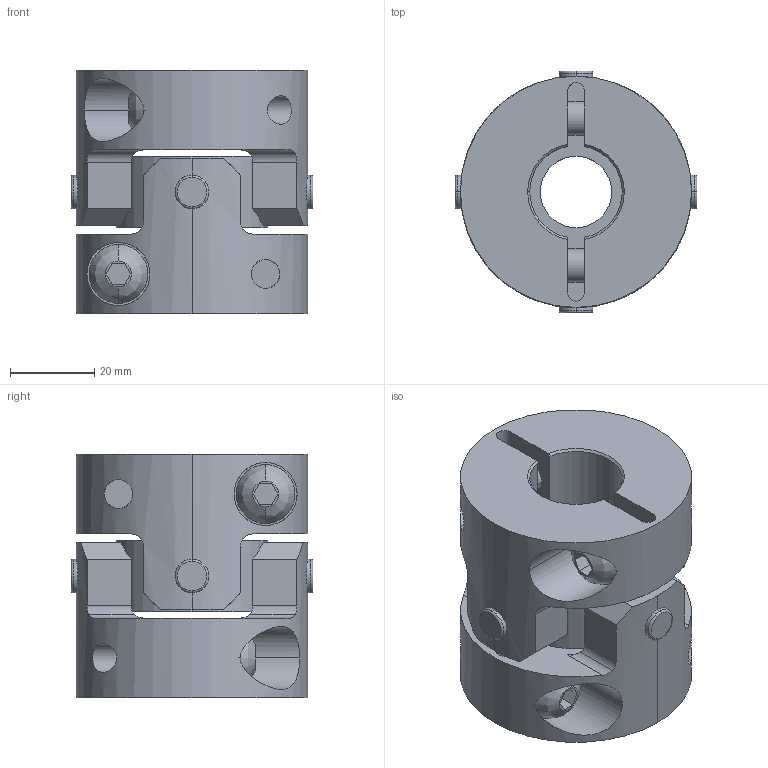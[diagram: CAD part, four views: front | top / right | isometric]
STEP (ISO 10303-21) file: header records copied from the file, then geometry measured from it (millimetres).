
FILE_DESCRIPTION((''),'2;1');
FILE_NAME('UA-55C-20×22.stp','2013-05-22T14:16:14',(''),(''),'AutoCAD STEP 2000i','AutoCAD 2000i',', , ');
FILE_SCHEMA(('CONFIG_CONTROL_DESIGN'));
Length unit declared in the file: millimetre
Products named in the file (8): UA-55C-18×18; 忣兜1; UA-5502-D18-1; BTN-M8; UA-5502-D18; UA-5502-D10-1; UA-5502-D10; UA55-SEN
Assembly tree (10 placements, depth 3):
  UA-55C-18×18
    忣兜1
    UA-5502-D18-1
      BTN-M8
    UA-5502-D18
      BTN-M8
    UA-5502-D10-1
      BTN-M8
    UA-5502-D10
      BTN-M8
    UA55-SEN
Bounding box: 57.55 x 57.55 x 58 mm (x, y, z)
Volume: 95832.4 mm3; surface area: 30429.1 mm2
Topology: 1 solids, 1 shells, 206 faces, 554 edges, 364 vertices
Faces by surface type: cylinder 96, plane 78, cone 16, bspline 8, torus 8
Entity records: 8435 total; most frequent: CARTESIAN_POINT 3079, ORIENTED_EDGE 1108, DIRECTION 1072, EDGE_CURVE 554, AXIS2_PLACEMENT_3D 413, VERTEX_POINT 364, VECTOR 246, LINE 246
